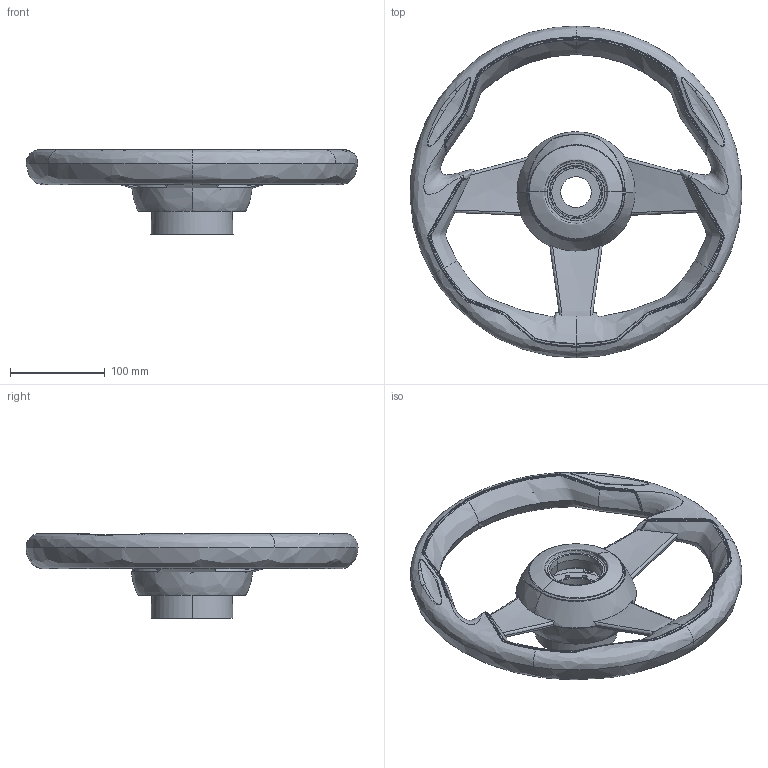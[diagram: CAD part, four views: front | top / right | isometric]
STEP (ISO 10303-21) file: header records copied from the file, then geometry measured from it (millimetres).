
FILE_DESCRIPTION(/* description */ (''),/* implementation_level */ '2;1');
FILE_NAME(/* name */ 'Vol_GRIMANI',/* time_stamp */ '2015-09-07T16:20:14+02:00',/* author */ (''),/* organization */ (''),/* preprocessor_version */ 'ST-DEVELOPER v10',/* originating_system */ '',/* authorisation */ '');
FILE_SCHEMA (('CONFIG_CONTROL_DESIGN'));
Length unit declared in the file: millimetre
Products named in the file (1): 1
Bounding box: 349.7 x 350 x 89.5 mm (x, y, z)
Volume: 317020 mm3; surface area: 349923.2 mm2
Topology: 6 solids, 12 shells, 598 faces, 1490 edges, 928 vertices
Faces by surface type: bspline 479, plane 119
Entity records: 53730 total; most frequent: CARTESIAN_POINT 45330, ORIENTED_EDGE 2890, EDGE_CURVE 1470, VERTEX_POINT 928, EDGE_LOOP 655, B_SPLINE_CURVE_WITH_KNOTS 634, ADVANCED_FACE 598, FACE_OUTER_BOUND 598
